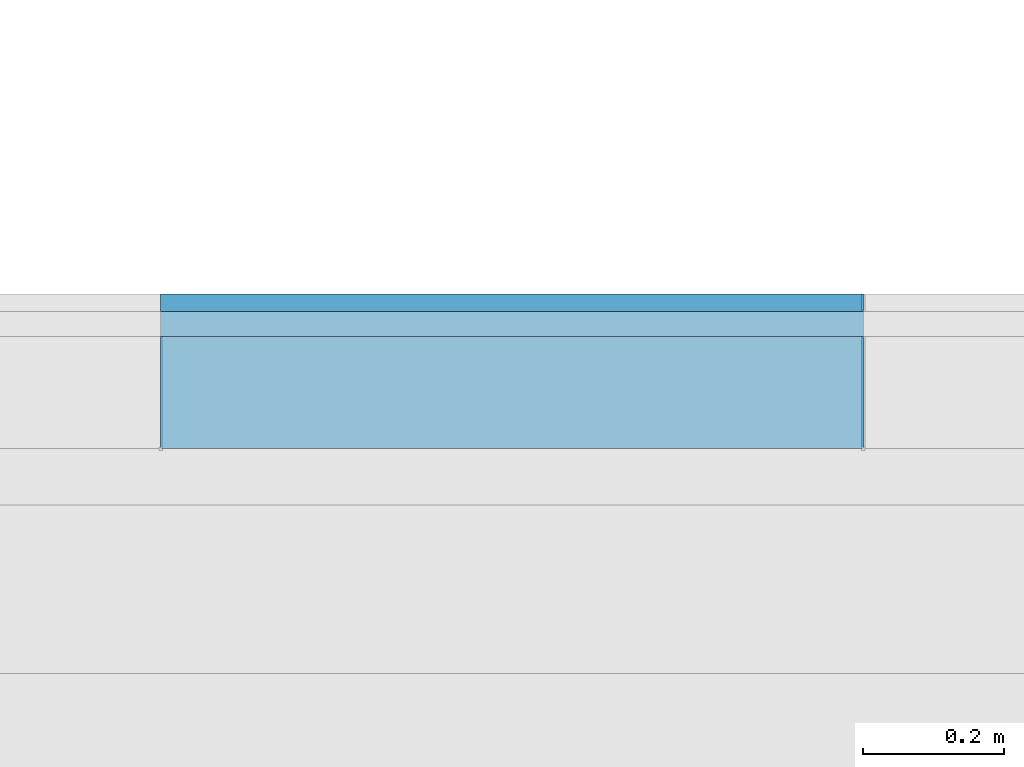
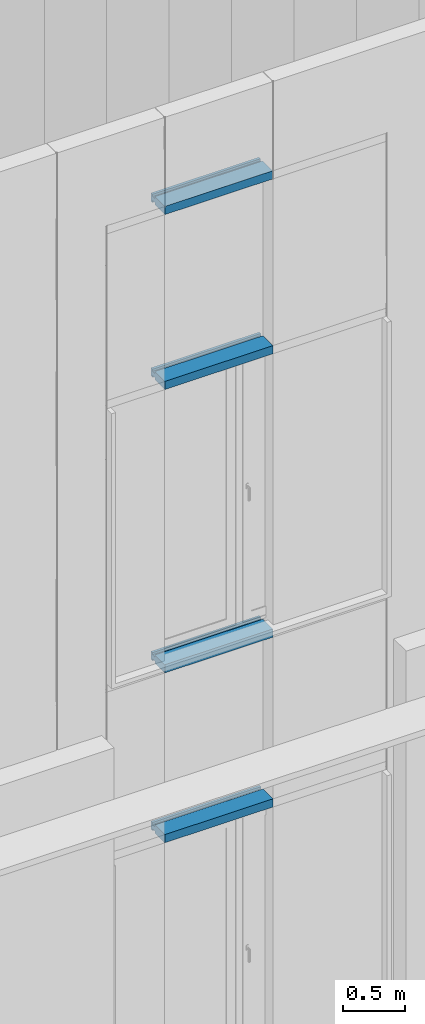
# One storey, part 123 of 302: 4 members, 1 element without a shape of its own.
"""IFC2X3 building model written with IfcOpenShell, lengths in metres."""

from ifc_helpers import new_model, entity, si_unit, converted_unit, derived_unit, direction, frame, origin, place, context, subcontext, project, spatial, polyline, outline, extrude, source, transform, mapped, material, type_object, type_shapes, element, aggregate, save


model = new_model("IFC2X3")

# Units and contexts
model_context = context("Model", 3, precision=1e-05, world=origin(), true_north=direction((6.12303176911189e-17, 1.0)))
body_context = subcontext(model_context, "Body", "Model", "MODEL_VIEW")
ifc_project = project(units=[si_unit("LENGTHUNIT", "METRE"), si_unit("AREAUNIT", "SQUARE_METRE"), si_unit("VOLUMEUNIT", "CUBIC_METRE"), converted_unit("PLANEANGLEUNIT", "DEGREE", entity("IfcRatioMeasure", 0.0174532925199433), si_unit("PLANEANGLEUNIT", "RADIAN"), dimensions=[0, 0, 0, 0, 0, 0, 0]), si_unit("MASSUNIT", "GRAM", prefix="KILO"), derived_unit("MASSDENSITYUNIT", [(si_unit("MASSUNIT", "GRAM", prefix="KILO"), 1), (si_unit("LENGTHUNIT", "METRE"), -3)]), derived_unit("MOMENTOFINERTIAUNIT", [(si_unit("LENGTHUNIT", "METRE"), 4)]), si_unit("TIMEUNIT", "SECOND"), si_unit("FREQUENCYUNIT", "HERTZ"), si_unit("THERMODYNAMICTEMPERATUREUNIT", "DEGREE_CELSIUS"), derived_unit("THERMALTRANSMITTANCEUNIT", [(si_unit("MASSUNIT", "GRAM", prefix="KILO"), 1), (si_unit("THERMODYNAMICTEMPERATUREUNIT", "KELVIN"), -1), (si_unit("TIMEUNIT", "SECOND"), -3)]), derived_unit("VOLUMETRICFLOWRATEUNIT", [(si_unit("LENGTHUNIT", "METRE"), 3), (si_unit("TIMEUNIT", "SECOND"), -1)]), si_unit("ELECTRICCURRENTUNIT", "AMPERE"), si_unit("ELECTRICVOLTAGEUNIT", "VOLT"), si_unit("POWERUNIT", "WATT"), si_unit("FORCEUNIT", "NEWTON", prefix="KILO"), si_unit("ILLUMINANCEUNIT", "LUX"), si_unit("LUMINOUSFLUXUNIT", "LUMEN"), si_unit("LUMINOUSINTENSITYUNIT", "CANDELA"), derived_unit("USERDEFINED", [(si_unit("MASSUNIT", "GRAM", prefix="KILO"), -1), (si_unit("LENGTHUNIT", "METRE"), -2), (si_unit("TIMEUNIT", "SECOND"), 3), (si_unit("LUMINOUSFLUXUNIT", "LUMEN"), 1)]), derived_unit("LINEARVELOCITYUNIT", [(si_unit("LENGTHUNIT", "METRE"), 1), (si_unit("TIMEUNIT", "SECOND"), -1)]), si_unit("PRESSUREUNIT", "PASCAL"), derived_unit("USERDEFINED", [(si_unit("LENGTHUNIT", "METRE"), -2), (si_unit("MASSUNIT", "GRAM", prefix="KILO"), 1), (si_unit("TIMEUNIT", "SECOND"), -2)]), derived_unit("LINEARFORCEUNIT", [(si_unit("MASSUNIT", "GRAM", prefix="KILO"), 1), (si_unit("LENGTHUNIT", "METRE"), 1), (si_unit("TIMEUNIT", "SECOND"), -2), (si_unit("LENGTHUNIT", "METRE"), -1)]), derived_unit("PLANARFORCEUNIT", [(si_unit("MASSUNIT", "GRAM", prefix="KILO"), 1), (si_unit("LENGTHUNIT", "METRE"), 1), (si_unit("TIMEUNIT", "SECOND"), -2), (si_unit("LENGTHUNIT", "METRE"), -2)])], contexts=[model_context])

# Site, building, storey
site_placement = place(None, origin())
site = spatial("IfcSite", under=ifc_project, at=site_placement, Name="Default", CompositionType="ELEMENT")
building_placement = place(site_placement, origin())
building = spatial("IfcBuilding", under=site, at=building_placement, CompositionType="ELEMENT")
storey_placement = place(building_placement, frame((0.0, 0.0, -1.3)))
storey = spatial("IfcBuildingStorey", under=building, at=storey_placement, Name="00_EG", CompositionType="ELEMENT", Elevation=-1.3)

# Curtain wall, members
curtain_wall_type = type_object("IfcCurtainWallType", Name="Fassade:Curtain Wall 1", PredefinedType="NOTDEFINED")
curtain_wall_placement = place(storey_placement, frame((0.0, 0.0, 1.3)))
curtain_wall = element("IfcCurtainWall", 1, at=curtain_wall_placement, inside=storey, type_object=curtain_wall_type, Name="Fassade:Curtain Wall 1", ObjectType="Fassade:Curtain Wall 1")
ifc_material = material(Name="Prepainted_Steel-ArcelorMittal_Construction_HAIRULTRA-35-CORAL-4309-[RAL_3000]")
member_type_1 = type_object("IfcMemberType", Name="Rectangular Mullion:Fassadenrahmen Typ 1", PredefinedType="MULLION", material=ifc_material)
shared_shape_1 = source(origin(), body_context, "Body", "SweptSolid", [
    extrude(outline(polyline([(-0.065, -0.04), (-0.04, -0.04), (-0.04, -0.02), (-0.00499999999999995, -0.02), (-0.00499999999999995, -0.04), (0.155, -0.04), (0.155, 0.04), (-0.00499999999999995, 0.04), (-0.00499999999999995, 0.02), (-0.04, 0.02), (-0.04, 0.04), (-0.065, 0.04), (-0.065, -0.04)])), frame((0.0, 0.155, -1.0), z_axis=(0.0, 0.0, 1.0), x_axis=(0.0, -1.0, 0.0)), (0.0, 0.0, 1.0), 0.999999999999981),
])
type_shapes(member_type_1, [shared_shape_1])
member_1_placement = place(storey_placement, frame((-212.61011151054, 45.578088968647, 4.06999999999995), z_axis=(-1.0, 0.0, 0.0), x_axis=(0.0, 0.0, 1.0)))
member_1 = element("IfcMember", 2, at=member_1_placement, type_object=member_type_1, material=ifc_material, Name="Rectangular Mullion:Fassadenrahmen Typ 1", ObjectType="Rectangular Mullion:Fassadenrahmen Typ 1", context=body_context, shape_type="MappedRepresentation", body=[
    mapped(shared_shape_1, transform((0.0, 0.0, 0.0), scale=1.0)),
])
member_2_placement = place(storey_placement, frame((-212.61011151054, 45.578088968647, 5.73), z_axis=(-1.0, 0.0, 0.0), x_axis=(0.0, 0.0, 1.0)))
member_2 = element("IfcMember", 3, at=member_2_placement, type_object=member_type_1, material=ifc_material, Name="Rectangular Mullion:Fassadenrahmen Typ 1", ObjectType="Rectangular Mullion:Fassadenrahmen Typ 1", context=body_context, shape_type="MappedRepresentation", body=[
    mapped(shared_shape_1, transform((0.0, 0.0, 0.0), scale=1.0)),
])
member_3_placement = place(storey_placement, frame((-212.61011151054, 45.578088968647, 8.49999999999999), z_axis=(-1.0, 0.0, 0.0), x_axis=(0.0, 0.0, 1.0)))
member_3 = element("IfcMember", 4, at=member_3_placement, type_object=member_type_1, material=ifc_material, Name="Rectangular Mullion:Fassadenrahmen Typ 1", ObjectType="Rectangular Mullion:Fassadenrahmen Typ 1", context=body_context, shape_type="MappedRepresentation", body=[
    mapped(shared_shape_1, transform((0.0, 0.0, 0.0), scale=1.0)),
])
member_type_2 = type_object("IfcMemberType", Name="Rectangular Mullion:Fassadenrahmen Typ 1", PredefinedType="MULLION", material=ifc_material)
shared_shape_2 = source(origin(), body_context, "Body", "SweptSolid", [
    extrude(outline(polyline([(-0.065, -0.04), (-0.04, -0.04), (-0.04, -0.02), (-0.00499999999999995, -0.02), (-0.00499999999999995, -0.04), (0.155, -0.04), (0.155, 0.04), (-0.00499999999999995, 0.04), (-0.00499999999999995, 0.02), (-0.04, 0.02), (-0.04, 0.04), (-0.065, 0.04), (-0.065, -0.04)])), frame((0.0, 0.155, -0.997499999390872), z_axis=(0.0, 0.0, 1.0), x_axis=(0.0, -1.0, 0.0)), (0.0, 0.0, 1.0), 0.997499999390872),
])
type_shapes(member_type_2, [shared_shape_2])
member_4_placement = place(storey_placement, frame((-212.61011151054, 45.578088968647, 10.2096475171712), z_axis=(-1.0, 0.0, 0.0), x_axis=(0.0, 0.0, 1.0)))
member_4 = element("IfcMember", 5, at=member_4_placement, type_object=member_type_2, material=ifc_material, Name="Rectangular Mullion:Fassadenrahmen Typ 1", ObjectType="Rectangular Mullion:Fassadenrahmen Typ 1", context=body_context, shape_type="MappedRepresentation", body=[
    mapped(shared_shape_2, transform((0.0, 0.0, 0.0), scale=1.0)),
])
aggregate(curtain_wall, [member_1, member_2, member_3, member_4])

save(model, "model.ifc")
